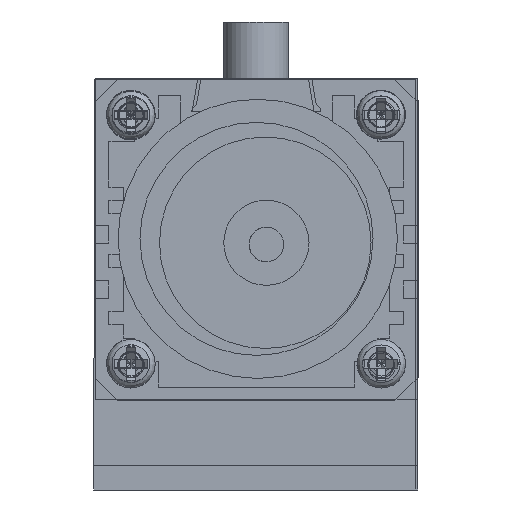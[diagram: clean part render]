
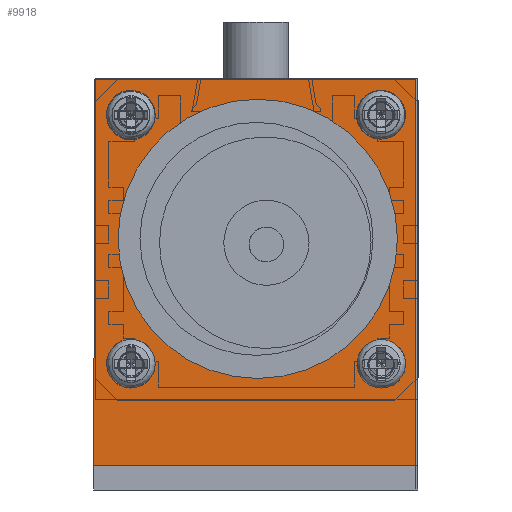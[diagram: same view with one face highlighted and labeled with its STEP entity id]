
A CAD part, front view. The second image highlights one B-rep face of the part: STEP entity #9918.
In plain terms, the highlighted planar face has unit normal (0, -1, 0).
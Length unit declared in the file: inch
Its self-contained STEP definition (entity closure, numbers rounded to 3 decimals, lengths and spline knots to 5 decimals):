
#400=FACE_BOUND('',#1837,.T.);
#401=FACE_BOUND('',#1838,.T.);
#402=FACE_BOUND('',#1839,.T.);
#403=FACE_BOUND('',#1840,.T.);
#404=FACE_BOUND('',#1841,.T.);
#641=CIRCLE('',#10737,0.49888);
#642=CIRCLE('',#10738,0.49888);
#645=CIRCLE('',#10742,0.05699);
#646=CIRCLE('',#10743,0.05699);
#649=CIRCLE('',#10747,0.05999);
#650=CIRCLE('',#10748,0.05999);
#653=CIRCLE('',#10752,0.05698);
#654=CIRCLE('',#10753,0.05698);
#657=CIRCLE('',#10757,0.05999);
#658=CIRCLE('',#10758,0.05999);
#1178=FACE_OUTER_BOUND('',#1836,.T.);
#1836=EDGE_LOOP('',(#7766,#7767,#7768,#7769));
#1837=EDGE_LOOP('',(#7770,#7771));
#1838=EDGE_LOOP('',(#7772,#7773));
#1839=EDGE_LOOP('',(#7774,#7775));
#1840=EDGE_LOOP('',(#7776,#7777));
#1841=EDGE_LOOP('',(#7778,#7779));
#2701=LINE('',#15943,#3561);
#2705=LINE('',#15951,#3565);
#2708=LINE('',#15957,#3568);
#2711=LINE('',#15962,#3571);
#3561=VECTOR('',#12745,0.3937);
#3565=VECTOR('',#12751,0.3937);
#3568=VECTOR('',#12756,0.3937);
#3571=VECTOR('',#12761,0.3937);
#4379=VERTEX_POINT('',#15895);
#4380=VERTEX_POINT('',#15897);
#4383=VERTEX_POINT('',#15905);
#4384=VERTEX_POINT('',#15907);
#4387=VERTEX_POINT('',#15915);
#4388=VERTEX_POINT('',#15917);
#4391=VERTEX_POINT('',#15925);
#4392=VERTEX_POINT('',#15927);
#4395=VERTEX_POINT('',#15935);
#4396=VERTEX_POINT('',#15937);
#4397=VERTEX_POINT('',#15941);
#4398=VERTEX_POINT('',#15942);
#4401=VERTEX_POINT('',#15950);
#4403=VERTEX_POINT('',#15956);
#5537=EDGE_CURVE('',#4380,#4379,#641,.T.);
#5538=EDGE_CURVE('',#4379,#4380,#642,.T.);
#5542=EDGE_CURVE('',#4384,#4383,#645,.T.);
#5543=EDGE_CURVE('',#4383,#4384,#646,.T.);
#5547=EDGE_CURVE('',#4388,#4387,#649,.T.);
#5548=EDGE_CURVE('',#4387,#4388,#650,.T.);
#5552=EDGE_CURVE('',#4392,#4391,#653,.T.);
#5553=EDGE_CURVE('',#4391,#4392,#654,.T.);
#5557=EDGE_CURVE('',#4396,#4395,#657,.T.);
#5558=EDGE_CURVE('',#4395,#4396,#658,.T.);
#5559=EDGE_CURVE('',#4397,#4398,#2701,.T.);
#5563=EDGE_CURVE('',#4398,#4401,#2705,.T.);
#5566=EDGE_CURVE('',#4401,#4403,#2708,.T.);
#5569=EDGE_CURVE('',#4403,#4397,#2711,.T.);
#7766=ORIENTED_EDGE('',*,*,#5559,.F.);
#7767=ORIENTED_EDGE('',*,*,#5569,.F.);
#7768=ORIENTED_EDGE('',*,*,#5566,.F.);
#7769=ORIENTED_EDGE('',*,*,#5563,.F.);
#7770=ORIENTED_EDGE('',*,*,#5537,.T.);
#7771=ORIENTED_EDGE('',*,*,#5538,.T.);
#7772=ORIENTED_EDGE('',*,*,#5542,.T.);
#7773=ORIENTED_EDGE('',*,*,#5543,.T.);
#7774=ORIENTED_EDGE('',*,*,#5547,.T.);
#7775=ORIENTED_EDGE('',*,*,#5548,.T.);
#7776=ORIENTED_EDGE('',*,*,#5552,.T.);
#7777=ORIENTED_EDGE('',*,*,#5553,.T.);
#7778=ORIENTED_EDGE('',*,*,#5557,.T.);
#7779=ORIENTED_EDGE('',*,*,#5558,.T.);
#9376=PLANE('',#10763);
#9918=ADVANCED_FACE('',(#1178,#400,#401,#402,#403,#404),#9376,.T.);
#10737=AXIS2_PLACEMENT_3D('',#15898,#12695,#12696);
#10738=AXIS2_PLACEMENT_3D('',#15899,#12697,#12698);
#10742=AXIS2_PLACEMENT_3D('',#15908,#12706,#12707);
#10743=AXIS2_PLACEMENT_3D('',#15909,#12708,#12709);
#10747=AXIS2_PLACEMENT_3D('',#15918,#12717,#12718);
#10748=AXIS2_PLACEMENT_3D('',#15919,#12719,#12720);
#10752=AXIS2_PLACEMENT_3D('',#15928,#12728,#12729);
#10753=AXIS2_PLACEMENT_3D('',#15929,#12730,#12731);
#10757=AXIS2_PLACEMENT_3D('',#15938,#12739,#12740);
#10758=AXIS2_PLACEMENT_3D('',#15939,#12741,#12742);
#10763=AXIS2_PLACEMENT_3D('',#15964,#12763,#12764);
#12695=DIRECTION('center_axis',(0.,1.,0.));
#12696=DIRECTION('ref_axis',(1.,0.,0.));
#12697=DIRECTION('center_axis',(0.,1.,0.));
#12698=DIRECTION('ref_axis',(1.,0.,0.));
#12706=DIRECTION('center_axis',(0.,1.,0.));
#12707=DIRECTION('ref_axis',(0.,0.,1.));
#12708=DIRECTION('center_axis',(0.,1.,0.));
#12709=DIRECTION('ref_axis',(0.,0.,1.));
#12717=DIRECTION('center_axis',(0.,1.,0.));
#12718=DIRECTION('ref_axis',(0.,0.,1.));
#12719=DIRECTION('center_axis',(0.,1.,0.));
#12720=DIRECTION('ref_axis',(0.,0.,1.));
#12728=DIRECTION('center_axis',(0.,1.,0.));
#12729=DIRECTION('ref_axis',(-1.,0.,0.002));
#12730=DIRECTION('center_axis',(0.,1.,0.));
#12731=DIRECTION('ref_axis',(-1.,0.,0.002));
#12739=DIRECTION('center_axis',(0.,1.,0.));
#12740=DIRECTION('ref_axis',(1.,0.,0.));
#12741=DIRECTION('center_axis',(0.,1.,0.));
#12742=DIRECTION('ref_axis',(1.,0.,0.));
#12745=DIRECTION('',(1.,0.,0.));
#12751=DIRECTION('',(0.,0.,-1.));
#12756=DIRECTION('',(-1.,0.,0.));
#12761=DIRECTION('',(0.002,0.,1.));
#12763=DIRECTION('center_axis',(0.,-1.,0.));
#12764=DIRECTION('ref_axis',(0.,0.,-1.));
#15895=CARTESIAN_POINT('',(536.65298,6605.10442,1360.36562));
#15897=CARTESIAN_POINT('',(537.15186,6605.10442,1359.86674));
#15898=CARTESIAN_POINT('Origin',(537.15186,6605.10442,1360.36562));
#15899=CARTESIAN_POINT('Origin',(537.15186,6605.10442,1360.36562));
#15905=CARTESIAN_POINT('',(537.70695,6605.10442,1360.88092));
#15907=CARTESIAN_POINT('',(537.76394,6605.10442,1360.93791));
#15908=CARTESIAN_POINT('Origin',(537.70695,6605.10442,1360.93791));
#15909=CARTESIAN_POINT('Origin',(537.70695,6605.10442,1360.93791));
#15915=CARTESIAN_POINT('',(536.58219,6605.10442,1360.87492));
#15917=CARTESIAN_POINT('',(536.64218,6605.10442,1360.93491));
#15918=CARTESIAN_POINT('Origin',(536.58219,6605.10442,1360.93491));
#15919=CARTESIAN_POINT('Origin',(536.58219,6605.10442,1360.93491));
#15925=CARTESIAN_POINT('',(536.63922,6605.10442,1359.81277));
#15927=CARTESIAN_POINT('',(536.58233,6605.10442,1359.86985));
#15928=CARTESIAN_POINT('Origin',(536.58223,6605.10442,1359.81287));
#15929=CARTESIAN_POINT('Origin',(536.58223,6605.10442,1359.81287));
#15935=CARTESIAN_POINT('',(537.65,6605.10442,1359.81287));
#15937=CARTESIAN_POINT('',(537.70999,6605.10442,1359.75288));
#15938=CARTESIAN_POINT('Origin',(537.70999,6605.10442,1359.81287));
#15939=CARTESIAN_POINT('Origin',(537.70999,6605.10442,1359.81287));
#15941=CARTESIAN_POINT('',(536.42109,6605.10442,1361.09942));
#15942=CARTESIAN_POINT('',(537.86787,6605.10442,1361.09942));
#15943=CARTESIAN_POINT('',(536.42109,6605.10442,1361.09942));
#15950=CARTESIAN_POINT('',(537.86787,6605.10442,1359.36));
#15951=CARTESIAN_POINT('',(537.86787,6605.10442,1361.09942));
#15956=CARTESIAN_POINT('',(536.41806,6605.10442,1359.36));
#15957=CARTESIAN_POINT('',(537.86787,6605.10442,1359.36));
#15962=CARTESIAN_POINT('',(536.41806,6605.10442,1359.36));
#15964=CARTESIAN_POINT('Origin',(537.14297,6605.10442,1359.359));
